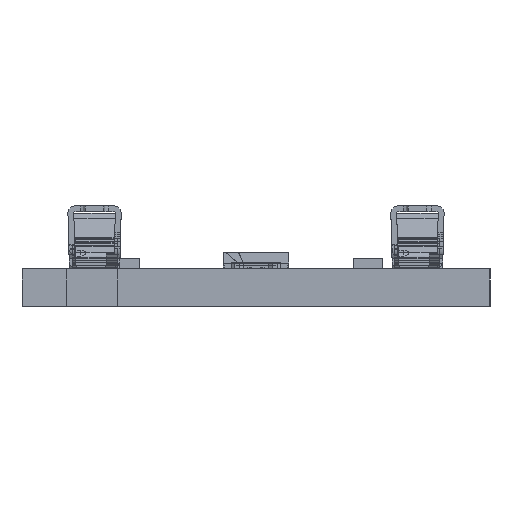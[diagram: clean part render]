
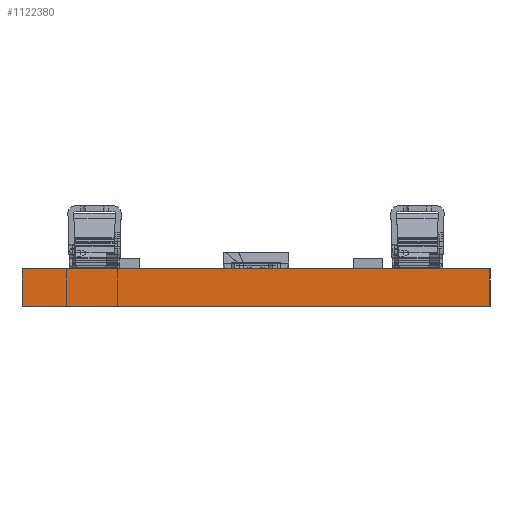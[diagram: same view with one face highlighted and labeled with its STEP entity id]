
A CAD part, left-side view. The second image highlights one B-rep face of the part: STEP entity #1122380.
In plain terms, the highlighted planar face has unit normal (-1, 0, 0).
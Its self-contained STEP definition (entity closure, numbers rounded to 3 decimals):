
#1085650=CARTESIAN_POINT('',(-279.5,10.,0.));
#1085660=DIRECTION('',(0.,-1.,0.));
#1085670=VECTOR('',#1085660,0.039);
#1085680=LINE('',#1085650,#1085670);
#1085690=CARTESIAN_POINT('',(-279.5,10.,0.));
#1085700=VERTEX_POINT('',#1085690);
#1085710=CARTESIAN_POINT('',(-279.5,-10.,0.));
#1085720=VERTEX_POINT('',#1085710);
#1085730=EDGE_CURVE('',#1085700,#1085720,#1085680,.T.);
#1097880=CARTESIAN_POINT('',(-279.5,-10.,-1.6));
#1097890=VERTEX_POINT('',#1097880);
#1102020=CARTESIAN_POINT('',(-279.5,10.,-1.6));
#1102030=VERTEX_POINT('',#1102020);
#1102060=CARTESIAN_POINT('',(-279.5,10.,-1.6));
#1102070=DIRECTION('',(0.,-1.,0.));
#1102080=VECTOR('',#1102070,0.039);
#1102090=LINE('',#1102060,#1102080);
#1102100=EDGE_CURVE('',#1102030,#1097890,#1102090,.T.);
#1110110=CARTESIAN_POINT('',(-279.5,-10.,0.));
#1110120=DIRECTION('',(0.,0.,-1.));
#1110130=VECTOR('',#1110120,1.);
#1110140=LINE('',#1110110,#1110130);
#1110150=EDGE_CURVE('',#1085720,#1097890,#1110140,.T.);
#1122090=CARTESIAN_POINT('',(-279.5,10.,0.));
#1122100=DIRECTION('',(0.,0.,-1.));
#1122110=VECTOR('',#1122100,1.);
#1122120=LINE('',#1122090,#1122110);
#1122130=EDGE_CURVE('',#1085700,#1102030,#1122120,.T.);
#1122270=CARTESIAN_POINT('',(-279.5,-10.,0.));
#1122280=DIRECTION('',(1.,0.,0.));
#1122290=DIRECTION('',(0.,-1.,0.));
#1122300=AXIS2_PLACEMENT_3D('',#1122270,#1122280,#1122290);
#1122310=PLANE('',#1122300);
#1122320=ORIENTED_EDGE('',*,*,#1085730,.F.);
#1122330=ORIENTED_EDGE('',*,*,#1110150,.F.);
#1122340=ORIENTED_EDGE('',*,*,#1102100,.T.);
#1122350=ORIENTED_EDGE('',*,*,#1122130,.T.);
#1122360=EDGE_LOOP('',(#1122350,#1122340,#1122330,#1122320));
#1122370=FACE_OUTER_BOUND('',#1122360,.T.);
#1122380=ADVANCED_FACE('',(#1122370),#1122310,.F.);
